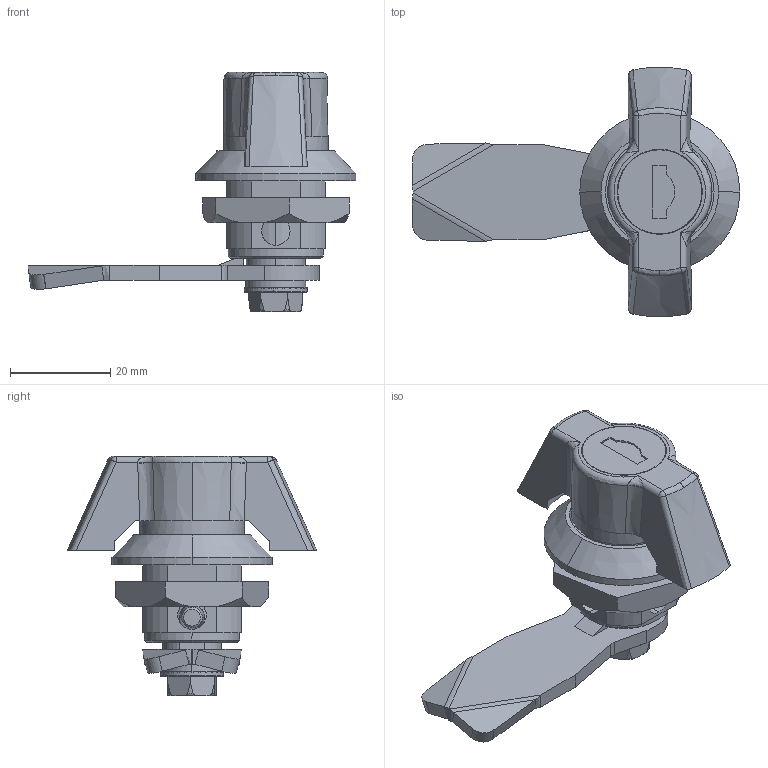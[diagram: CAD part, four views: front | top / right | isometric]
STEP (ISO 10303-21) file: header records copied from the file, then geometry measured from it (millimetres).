
FILE_DESCRIPTION (( 'STEP AP214' ), '1' );
FILE_NAME ('2.PM18.001.STEP', '2010-03-05T12:31:25', ( 'Techniczny' ), ( 'RST Roztocze' ), 'SwSTEP 2.0', 'SolidWorks 2010', '' );
FILE_SCHEMA (( 'AUTOMOTIVE_DESIGN' ));
Length unit declared in the file: millimetre
Products named in the file (11): 2.PM18.002.03; Wk³adka patentowa z mimoœrodem_Default; Podk³adka M6; 2.M22.06.01.00; Pokr皻這 motylkowe; wkret; 1C.J-10018.00.03.00; 1111111111; Œruba M6x8_1; œruba_1; 2.PM18.001
Assembly tree (10 placements, depth 3):
  2.PM18.001
    Œruba M6x8_1
      œruba_1
    1C.J-10018.00.03.00
    Pokr皻這 motylkowe
    2.PM18.002.03
    Wk³adka patentowa z mimoœrodem_Default
    Podk³adka M6
    2.M22.06.01.00
    1111111111
    wkret
Bounding box: 65.49 x 49.87 x 47.8 mm (x, y, z)
Volume: 21446.6 mm3; surface area: 16010.4 mm2
Topology: 9 solids, 9 shells, 348 faces, 880 edges, 559 vertices
Faces by surface type: plane 172, cylinder 94, cone 41, bspline 20, torus 17, sphere 4
Entity records: 19252 total; most frequent: CARTESIAN_POINT 7100, ORIENTED_EDGE 1744, DIRECTION 1544, EDGE_CURVE 872, AXIS2_PLACEMENT_3D 586, VERTEX_POINT 558, EDGE_LOOP 386, UNCERTAINTY_MEASURE_WITH_UNIT 377
